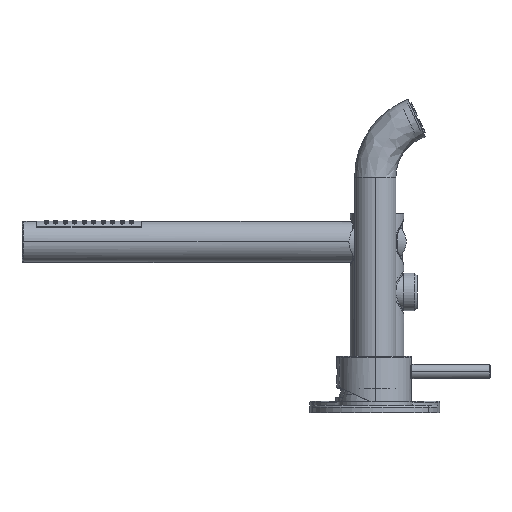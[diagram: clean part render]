
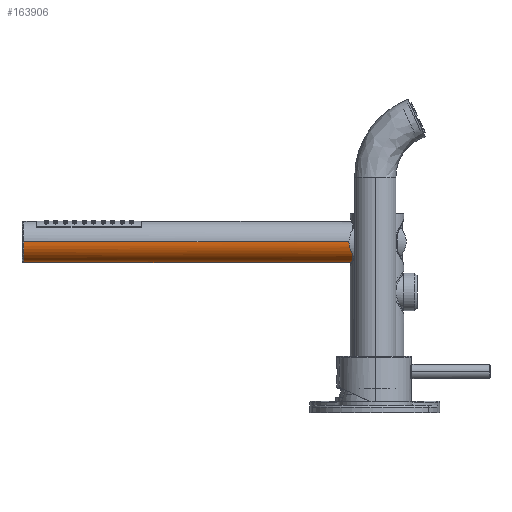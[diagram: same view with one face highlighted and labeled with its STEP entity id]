
A CAD part, left-side view. The second image highlights one B-rep face of the part: STEP entity #163906.
In plain terms, the highlighted cylindrical face has radius 11.5 mm (diameter 23 mm), a partial arc.
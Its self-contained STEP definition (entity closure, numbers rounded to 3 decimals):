
#694 = ORIENTED_EDGE ( 'NONE', *, *, #280398, .T. ) ;
#1670 = VECTOR ( 'NONE', #168784, 1000. ) ;
#3161 = CARTESIAN_POINT ( 'NONE',  ( 240.44, 12.954, 146.06 ) ) ;
#4368 = CARTESIAN_POINT ( 'NONE',  ( 237.546, 12.463, 147.589 ) ) ;
#4585 = EDGE_CURVE ( 'NONE', #27369, #284481, #129152, .T. ) ;
#4772 = ORIENTED_EDGE ( 'NONE', *, *, #273760, .T. ) ;
#9047 = CARTESIAN_POINT ( 'NONE',  ( 255.754, 195.963, 156.929 ) ) ;
#12444 = ORIENTED_EDGE ( 'NONE', *, *, #187986, .T. ) ;
#13912 = B_SPLINE_CURVE_WITH_KNOTS ( 'NONE', 3,
 ( #126027, #215467, #15729, #172983 ),
 .UNSPECIFIED., .F., .F.,
 ( 4, 4 ),
 ( 0.057, 0.058 ),
 .UNSPECIFIED. ) ;
#15729 = CARTESIAN_POINT ( 'NONE',  ( 252.72, 12.908, 149.138 ) ) ;
#16089 = CARTESIAN_POINT ( 'NONE',  ( 233.04, 12.572, 154.368 ) ) ;
#16653 = ORIENTED_EDGE ( 'NONE', *, *, #4585, .T. ) ;
#27369 = VERTEX_POINT ( 'NONE', #4368 ) ;
#29879 = DIRECTION ( 'NONE',  ( 0., 1., 0. ) ) ;
#31399 = CIRCLE ( 'NONE', #148690, 11.5 ) ;
#33243 = CARTESIAN_POINT ( 'NONE',  ( 242.696, 12.892, 145.531 ) ) ;
#36797 = CARTESIAN_POINT ( 'NONE',  ( 232.789, 12.794, 155.89 ) ) ;
#43129 = B_SPLINE_CURVE_WITH_KNOTS ( 'NONE', 3,
 ( #127831, #61659, #36797, #195241, #260029, #16089, #80796, #148442 ),
 .UNSPECIFIED., .F., .F.,
 ( 4, 2, 2, 4 ),
 ( 0.029, 0.031, 0.032, 0.032 ),
 .UNSPECIFIED. ) ;
#44856 = AXIS2_PLACEMENT_3D ( 'NONE', #63148, #127867, #264400 ) ;
#46440 = VERTEX_POINT ( 'NONE', #140656 ) ;
#47084 = DIRECTION ( 'NONE',  ( -1., 0., 0. ) ) ;
#55721 = LINE ( 'NONE', #76219, #1670 ) ;
#56175 = FACE_OUTER_BOUND ( 'NONE', #121532, .T. ) ;
#61659 = CARTESIAN_POINT ( 'NONE',  ( 232.754, 12.826, 156.406 ) ) ;
#63148 = CARTESIAN_POINT ( 'NONE',  ( 244.254, 12.463, 156.929 ) ) ;
#66480 = CARTESIAN_POINT ( 'NONE',  ( 238.646, 12.721, 146.884 ) ) ;
#74808 = CARTESIAN_POINT ( 'NONE',  ( 252.954, 13.135, 149.409 ) ) ;
#76219 = CARTESIAN_POINT ( 'NONE',  ( 232.754, 149.963, 156.929 ) ) ;
#80796 = CARTESIAN_POINT ( 'NONE',  ( 233.1, 12.52, 154.117 ) ) ;
#81713 = ORIENTED_EDGE ( 'NONE', *, *, #95908, .F. ) ;
#84951 = DIRECTION ( 'NONE',  ( 0., 1., 0. ) ) ;
#85466 = VERTEX_POINT ( 'NONE', #138787 ) ;
#92865 = CARTESIAN_POINT ( 'NONE',  ( 237.546, 12.463, 147.589 ) ) ;
#94291 = CARTESIAN_POINT ( 'NONE',  ( 241.393, 12.966, 145.786 ) ) ;
#95908 = EDGE_CURVE ( 'NONE', #85466, #196710, #13912, .T. ) ;
#101898 = AXIS2_PLACEMENT_3D ( 'NONE', #155673, #268759, #218795 ) ;
#102856 = AXIS2_PLACEMENT_3D ( 'NONE', #145789, #186807, #235347 ) ;
#103940 = EDGE_CURVE ( 'NONE', #46440, #27369, #182103, .T. ) ;
#109298 = EDGE_CURVE ( 'NONE', #272980, #284481, #43129, .T. ) ;
#111333 = LINE ( 'NONE', #239173, #158740 ) ;
#114176 = VERTEX_POINT ( 'NONE', #148417 ) ;
#114883 = CARTESIAN_POINT ( 'NONE',  ( 239.826, 12.903, 146.295 ) ) ;
#121532 = EDGE_LOOP ( 'NONE', ( #186374, #4772, #131026, #81713, #280061, #218525, #16653, #170830, #12444, #694 ) ) ;
#126027 = CARTESIAN_POINT ( 'NONE',  ( 252.211, 12.463, 148.627 ) ) ;
#127831 = CARTESIAN_POINT ( 'NONE',  ( 232.754, 12.826, 156.929 ) ) ;
#127867 = DIRECTION ( 'NONE',  ( 0., 1., 0. ) ) ;
#129152 = CIRCLE ( 'NONE', #44856, 11.5 ) ;
#130054 = CIRCLE ( 'NONE', #101898, 11.5 ) ;
#130782 = EDGE_CURVE ( 'NONE', #193755, #196710, #252365, .T. ) ;
#131026 = ORIENTED_EDGE ( 'NONE', *, *, #130782, .T. ) ;
#138787 = CARTESIAN_POINT ( 'NONE',  ( 252.211, 12.463, 148.627 ) ) ;
#139643 = DIRECTION ( 'NONE',  ( 0., 1., 0. ) ) ;
#140656 = CARTESIAN_POINT ( 'NONE',  ( 244.962, 12.463, 145.451 ) ) ;
#144943 = CARTESIAN_POINT ( 'NONE',  ( 243.672, 12.768, 145.426 ) ) ;
#145789 = CARTESIAN_POINT ( 'NONE',  ( 244.254, 149.963, 156.929 ) ) ;
#148417 = CARTESIAN_POINT ( 'NONE',  ( 232.754, 195.963, 156.929 ) ) ;
#148442 = CARTESIAN_POINT ( 'NONE',  ( 233.168, 12.463, 153.872 ) ) ;
#148690 = AXIS2_PLACEMENT_3D ( 'NONE', #231131, #29879, #211826 ) ;
#155673 = CARTESIAN_POINT ( 'NONE',  ( 244.254, 195.963, 156.929 ) ) ;
#158740 = VECTOR ( 'NONE', #84951, 1000. ) ;
#159777 = CARTESIAN_POINT ( 'NONE',  ( 232.754, 12.826, 156.929 ) ) ;
#163906 = ADVANCED_FACE ( 'NONE', ( #56175 ), #255905, .T. ) ;
#164138 = CARTESIAN_POINT ( 'NONE',  ( 252.954, 149.963, 149.409 ) ) ;
#168784 = DIRECTION ( 'NONE',  ( 0., 1., 0. ) ) ;
#170830 = ORIENTED_EDGE ( 'NONE', *, *, #109298, .F. ) ;
#172237 = CIRCLE ( 'NONE', #214236, 11.5 ) ;
#172983 = CARTESIAN_POINT ( 'NONE',  ( 252.954, 13.135, 149.409 ) ) ;
#175234 = CARTESIAN_POINT ( 'NONE',  ( 244.962, 12.463, 145.451 ) ) ;
#182103 = B_SPLINE_CURVE_WITH_KNOTS ( 'NONE', 3,
 ( #175234, #288395, #144943, #33243, #212284, #248569, #94291, #3161, #114883, #272093, #66480, #225067, #273544, #92865 ),
 .UNSPECIFIED., .F., .F.,
 ( 4, 2, 2, 2, 2, 2, 4 ),
 ( 0., 0.002, 0.003, 0.004, 0.006, 0.007, 0.008 ),
 .UNSPECIFIED. ) ;
#185651 = CARTESIAN_POINT ( 'NONE',  ( 233.168, 12.463, 153.872 ) ) ;
#186374 = ORIENTED_EDGE ( 'NONE', *, *, #196233, .F. ) ;
#186807 = DIRECTION ( 'NONE',  ( 0., 1., 0. ) ) ;
#187986 = EDGE_CURVE ( 'NONE', #272980, #114176, #55721, .T. ) ;
#193755 = VERTEX_POINT ( 'NONE', #276415 ) ;
#195241 = CARTESIAN_POINT ( 'NONE',  ( 232.893, 12.701, 155.125 ) ) ;
#196233 = EDGE_CURVE ( 'NONE', #223227, #238008, #111333, .T. ) ;
#196710 = VERTEX_POINT ( 'NONE', #74808 ) ;
#205117 = VECTOR ( 'NONE', #253789, 1000. ) ;
#211826 = DIRECTION ( 'NONE',  ( -1., 0., 0. ) ) ;
#212284 = CARTESIAN_POINT ( 'NONE',  ( 242.37, 12.922, 145.58 ) ) ;
#214236 = AXIS2_PLACEMENT_3D ( 'NONE', #224743, #139643, #47084 ) ;
#215467 = CARTESIAN_POINT ( 'NONE',  ( 252.472, 12.683, 148.877 ) ) ;
#218525 = ORIENTED_EDGE ( 'NONE', *, *, #103940, .T. ) ;
#218795 = DIRECTION ( 'NONE',  ( -1., 0., 0. ) ) ;
#223227 = VERTEX_POINT ( 'NONE', #283176 ) ;
#224743 = CARTESIAN_POINT ( 'NONE',  ( 244.254, 12.463, 156.929 ) ) ;
#225067 = CARTESIAN_POINT ( 'NONE',  ( 238.083, 12.602, 147.22 ) ) ;
#227797 = EDGE_CURVE ( 'NONE', #85466, #46440, #172237, .T. ) ;
#231131 = CARTESIAN_POINT ( 'NONE',  ( 244.254, 12.463, 156.929 ) ) ;
#235347 = DIRECTION ( 'NONE',  ( -1., 0., 0. ) ) ;
#238008 = VERTEX_POINT ( 'NONE', #9047 ) ;
#239173 = CARTESIAN_POINT ( 'NONE',  ( 255.754, 149.963, 156.929 ) ) ;
#248569 = CARTESIAN_POINT ( 'NONE',  ( 241.717, 12.959, 145.708 ) ) ;
#252365 = LINE ( 'NONE', #164138, #205117 ) ;
#253789 = DIRECTION ( 'NONE',  ( 0., 1., 0. ) ) ;
#255905 = CYLINDRICAL_SURFACE ( 'NONE', #102856, 11.5 ) ;
#260029 = CARTESIAN_POINT ( 'NONE',  ( 232.936, 12.663, 154.872 ) ) ;
#264400 = DIRECTION ( 'NONE',  ( -1., 0., 0. ) ) ;
#268759 = DIRECTION ( 'NONE',  ( 0., -1., 0. ) ) ;
#272093 = CARTESIAN_POINT ( 'NONE',  ( 238.936, 12.773, 146.727 ) ) ;
#272980 = VERTEX_POINT ( 'NONE', #159777 ) ;
#273544 = CARTESIAN_POINT ( 'NONE',  ( 237.81, 12.536, 147.399 ) ) ;
#273760 = EDGE_CURVE ( 'NONE', #223227, #193755, #31399, .T. ) ;
#276415 = CARTESIAN_POINT ( 'NONE',  ( 252.954, 12.463, 149.409 ) ) ;
#280061 = ORIENTED_EDGE ( 'NONE', *, *, #227797, .T. ) ;
#280398 = EDGE_CURVE ( 'NONE', #114176, #238008, #130054, .T. ) ;
#283176 = CARTESIAN_POINT ( 'NONE',  ( 255.754, 12.463, 156.929 ) ) ;
#284481 = VERTEX_POINT ( 'NONE', #185651 ) ;
#288395 = CARTESIAN_POINT ( 'NONE',  ( 244.319, 12.64, 145.412 ) ) ;
